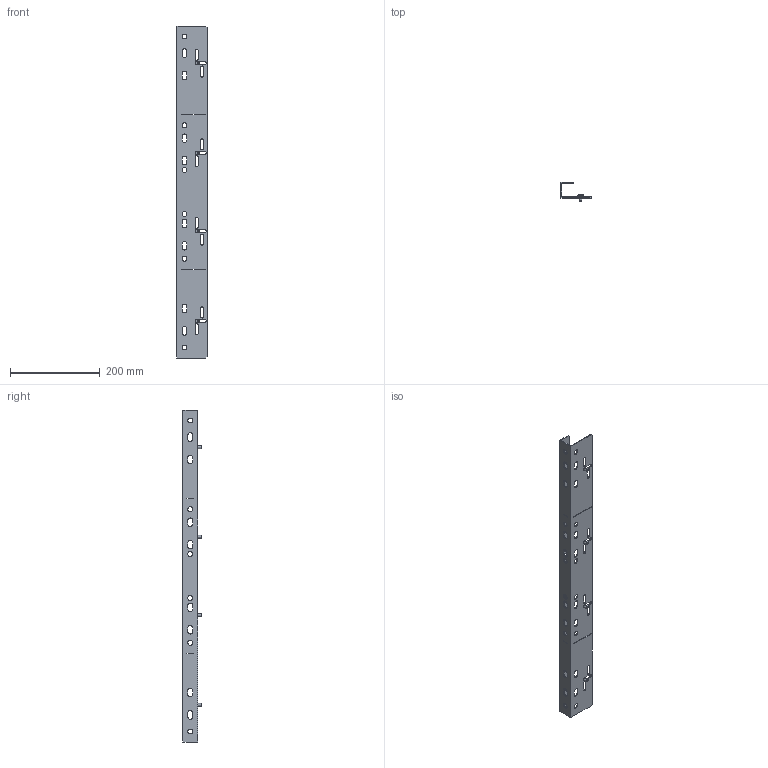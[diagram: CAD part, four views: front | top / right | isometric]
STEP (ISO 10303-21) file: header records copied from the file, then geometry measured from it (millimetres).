
FILE_DESCRIPTION (( 'STEP AP203' ), '1' );
FILE_NAME ('FO-00-SIG Êîìïëåêò ïëàíêè îïîðíûõ èçîëÿòîðîâ ARMAT ACB òèïîðàçìåð G 3II4P.STEP', '2025-08-04T10:59:46', ( '' ), ( '' ), 'SwSTEP 2.0', 'SolidWorks 2023', '' );
FILE_SCHEMA (( 'CONFIG_CONTROL_DESIGN' ));
Length unit declared in the file: millimetre
Products named in the file (3): Комплект планки опорных изоляторов ARMAT ACB типоразмер G 3II4P; FO-00-SIG Комплект планки опорных изоляторов ARMAT ACB типоразмер G 3II4P; Винт М6х10 IEK
Assembly tree (5 placements, depth 2):
  FO-00-SIG Комплект планки опорных изоляторов ARMAT ACB типоразмер G 3II4P
    Комплект планки опорных изоляторов ARMAT ACB типоразмер G 3II4P
    Винт М6х10 IEK  x4
Bounding box: 67.5 x 42 x 741 mm (x, y, z)
Volume: 173776.9 mm3; surface area: 182485.7 mm2
Topology: 5 solids, 5 shells, 370 faces, 1032 edges, 680 vertices
Faces by surface type: plane 182, cylinder 128, cone 44, torus 16
Entity records: 9878 total; most frequent: CARTESIAN_POINT 1652, DIRECTION 1629, ORIENTED_EDGE 1614, EDGE_CURVE 807, AXIS2_PLACEMENT_3D 545, LINE 539, VECTOR 539, VERTEX_POINT 536
